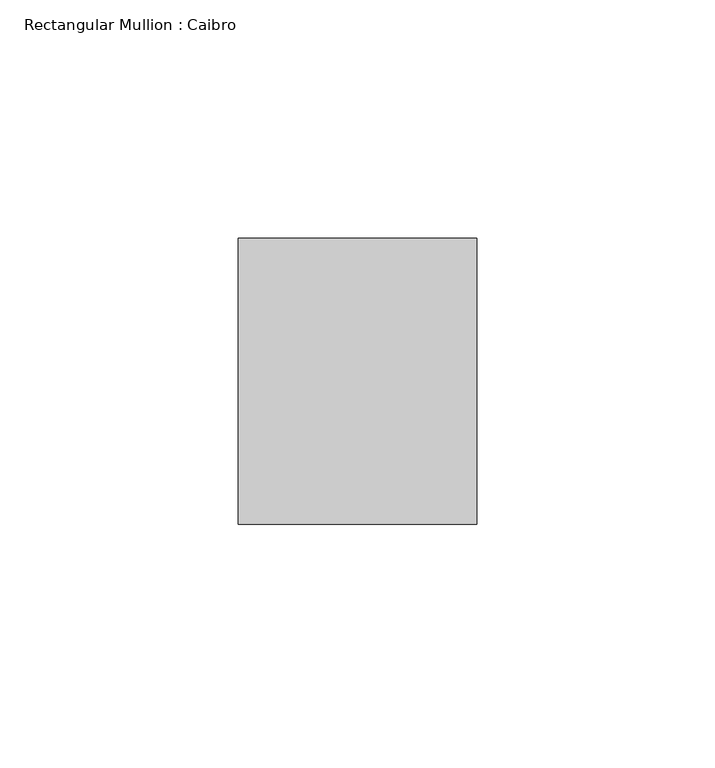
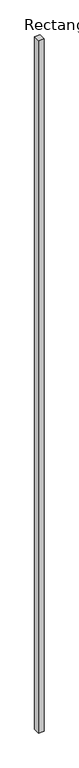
"""IFC4 building model written with IfcOpenShell, lengths in millimetres: member geometry, Rectangular Mullion : Caibro."""

from ifc_helpers import new_model, si_unit, frame, origin, place, context, project, spatial, polyline, outline, extrude, source, transform, mapped, element, save


def rectangular_mullion_caibro_f101e951(model_context):
    return source(origin(), model_context, "Body", "SweptSolid", [
        extrude(outline(polyline([(-50.0, -60.0), (-50.0, 0.0), (0.0, 0.0), (0.0, -60.0), (-50.0, -60.0)])), frame((0.0, 0.0, -6651.7961657), z_axis=(0.0, 0.0, 1.0), x_axis=(1.0, 0.0, 0.0)), (0.0, 0.0, 1.0), 6651.7961657),
    ])


if __name__ == "__main__":
    model = new_model("IFC4")
    model_context = context("Model", 3, world=origin())
    ifc_project = project(units=[si_unit("LENGTHUNIT", "METRE", prefix="MILLI")], contexts=[model_context])
    site = spatial("IfcSite", under=ifc_project)
    building = spatial("IfcBuilding", under=site)
    placement = place(None, origin())
    rectangular_mullion_caibro_shape = rectangular_mullion_caibro_f101e951(model_context)
    element("IfcMember", 1, ObjectType="Rectangular Mullion : Caibro", at=placement, inside=building, context=model_context, shape_type="MappedRepresentation", body=[
        mapped(rectangular_mullion_caibro_shape, transform((0.0, 0.0, 0.0), x_axis=(1.0, 0.0, 0.0), y_axis=(0.0, 1.0, 0.0), z_axis=(0.0, 0.0, 1.0))),
    ])
    save(model, "model.ifc")
